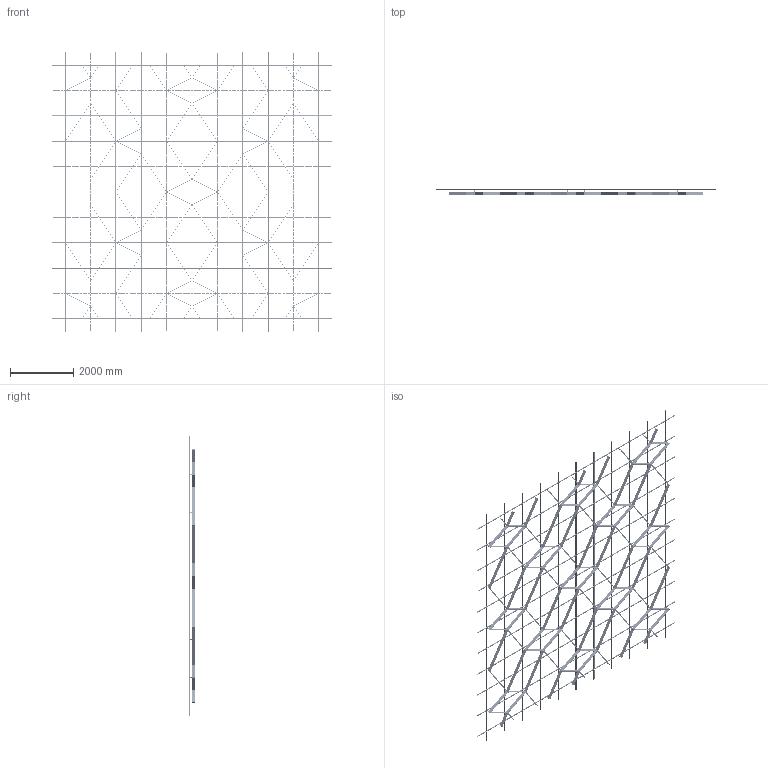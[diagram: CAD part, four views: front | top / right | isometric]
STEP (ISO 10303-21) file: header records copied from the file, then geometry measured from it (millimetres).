
FILE_DESCRIPTION (( 'STEP AP203' ), '1' );
FILE_NAME ('13 ìèäè ñ ïñ.step', '2025-11-26T11:36:33', ( '' ), ( '' ), 'SwSTEP 2.0', 'SolidWorks 2020', '' );
FILE_SCHEMA (( 'CONFIG_CONTROL_DESIGN' ));
Length unit declared in the file: millimetre
Products named in the file (5): SS.SEMA.2400 - Ñèìà-ïðîôèëü; Ñèñòåìà â çîíå 8000õ8000; 13 ìèäè ñ ïñ; SS.SEMA.2400 - Ñèìà-ïðîôèëü — îáðåçàí 1600; Var13
Assembly tree (90 placements, depth 3):
  13 ìèäè ñ ïñ
    Ñèñòåìà â çîíå 8000õ8000
      SS.SEMA.2400 - Ñèìà-ïðîôèëü  x66
      SS.SEMA.2400 - Ñèìà-ïðîôèëü — îáðåçàí 1600  x22
    Var13
Bounding box: 8800 x 205 x 8800 mm (x, y, z)
Volume: 110499652.7 mm3; surface area: 52982472.7 mm2
Topology: 504 solids, 504 shells, 18388 faces, 50732 edges, 33352 vertices
Faces by surface type: cylinder 12466, plane 5922
Entity records: 58463 total; most frequent: CARTESIAN_POINT 12986, DIRECTION 8562, ORIENTED_EDGE 8312, EDGE_CURVE 4156, AXIS2_PLACEMENT_3D 4032, VERTEX_POINT 2760, EDGE_LOOP 2394, FACE_OUTER_BOUND 2232
